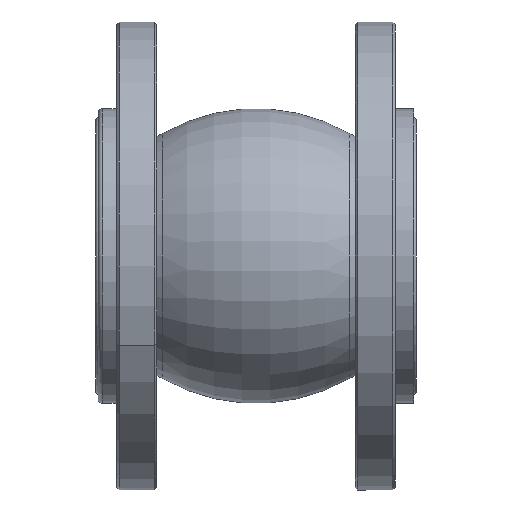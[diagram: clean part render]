
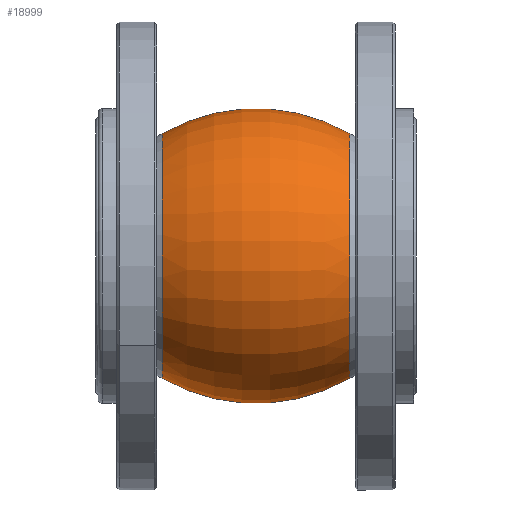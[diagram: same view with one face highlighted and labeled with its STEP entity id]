
A CAD part, front view. The second image highlights one B-rep face of the part: STEP entity #18999.
In plain terms, the highlighted toroidal (fillet/blend) face has major radius 17 mm and minor radius 80 mm.
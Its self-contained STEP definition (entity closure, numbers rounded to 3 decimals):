
#1921 = ORIENTED_EDGE ( 'NONE', *, *, #16412, .F. ) ;
#1998 = VERTEX_POINT ( 'NONE', #3993 ) ;
#2581 = EDGE_CURVE ( 'NONE', #28369, #1998, #13316, .T. ) ;
#2974 = CARTESIAN_POINT ( 'NONE',  ( 0., 0., 17. ) ) ;
#3993 = CARTESIAN_POINT ( 'NONE',  ( -40.142, 0., -52.2 ) ) ;
#4718 = ORIENTED_EDGE ( 'NONE', *, *, #2581, .F. ) ;
#5032 = CARTESIAN_POINT ( 'NONE',  ( 40.142, 0., -52.2 ) ) ;
#6040 = TOROIDAL_SURFACE ( 'NONE', #14562, -17., 80. ) ;
#6760 = CIRCLE ( 'NONE', #13176, 80. ) ;
#7649 = DIRECTION ( 'NONE',  ( 0., 0., 1. ) ) ;
#8322 = EDGE_CURVE ( 'NONE', #28369, #22202, #13252, .T. ) ;
#8771 = CARTESIAN_POINT ( 'NONE',  ( 0., 0., 0. ) ) ;
#8866 = DIRECTION ( 'NONE',  ( 0., 0., 1. ) ) ;
#9964 = AXIS2_PLACEMENT_3D ( 'NONE', #26681, #31338, #11677 ) ;
#11606 = DIRECTION ( 'NONE',  ( 0., 0., -1. ) ) ;
#11677 = DIRECTION ( 'NONE',  ( 0., 0., 1. ) ) ;
#11885 = DIRECTION ( 'NONE',  ( 0., 0., 1. ) ) ;
#13176 = AXIS2_PLACEMENT_3D ( 'NONE', #23842, #14164, #11606 ) ;
#13252 = CIRCLE ( 'NONE', #9964, 52.2 ) ;
#13316 = CIRCLE ( 'NONE', #22345, 80. ) ;
#14089 = CIRCLE ( 'NONE', #15976, 52.2 ) ;
#14164 = DIRECTION ( 'NONE',  ( 0., -1., 0. ) ) ;
#14562 = AXIS2_PLACEMENT_3D ( 'NONE', #8771, #30783, #8866 ) ;
#15976 = AXIS2_PLACEMENT_3D ( 'NONE', #28673, #24012, #11885 ) ;
#16412 = EDGE_CURVE ( 'NONE', #1998, #18325, #14089, .T. ) ;
#18325 = VERTEX_POINT ( 'NONE', #19703 ) ;
#18999 = ADVANCED_FACE ( 'NONE', ( #22814 ), #6040, .T. ) ;
#19703 = CARTESIAN_POINT ( 'NONE',  ( -40.142, 0., 52.2 ) ) ;
#19926 = ORIENTED_EDGE ( 'NONE', *, *, #20734, .T. ) ;
#20734 = EDGE_CURVE ( 'NONE', #22202, #18325, #6760, .T. ) ;
#20994 = EDGE_LOOP ( 'NONE', ( #4718, #21721, #19926, #1921 ) ) ;
#21721 = ORIENTED_EDGE ( 'NONE', *, *, #8322, .T. ) ;
#22119 = DIRECTION ( 'NONE',  ( 0., 1., 0. ) ) ;
#22202 = VERTEX_POINT ( 'NONE', #27312 ) ;
#22345 = AXIS2_PLACEMENT_3D ( 'NONE', #2974, #22119, #7649 ) ;
#22814 = FACE_OUTER_BOUND ( 'NONE', #20994, .T. ) ;
#23842 = CARTESIAN_POINT ( 'NONE',  ( 0., 0., -17. ) ) ;
#24012 = DIRECTION ( 'NONE',  ( -1., 0., 0. ) ) ;
#26681 = CARTESIAN_POINT ( 'NONE',  ( 40.142, 0., 0. ) ) ;
#27312 = CARTESIAN_POINT ( 'NONE',  ( 40.142, 0., 52.2 ) ) ;
#28369 = VERTEX_POINT ( 'NONE', #5032 ) ;
#28673 = CARTESIAN_POINT ( 'NONE',  ( -40.142, 0., 0. ) ) ;
#30783 = DIRECTION ( 'NONE',  ( -1., 0., 0. ) ) ;
#31338 = DIRECTION ( 'NONE',  ( -1., 0., 0. ) ) ;
